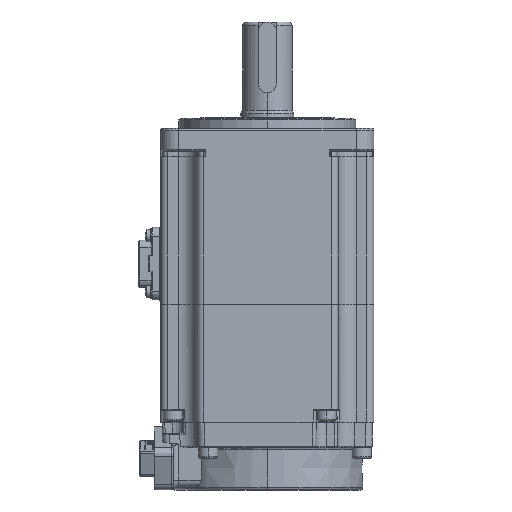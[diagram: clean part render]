
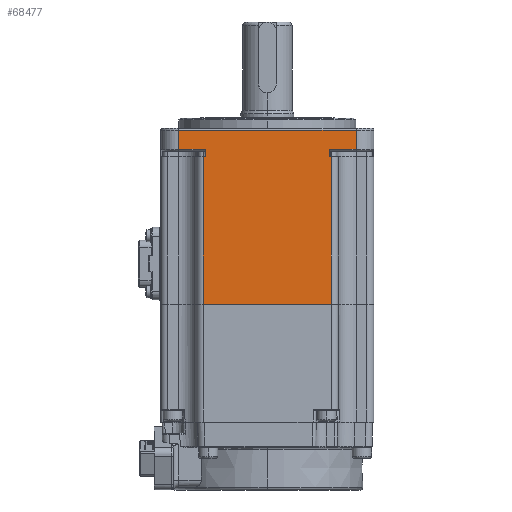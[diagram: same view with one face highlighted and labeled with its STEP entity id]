
A CAD part, left-side view. The second image highlights one B-rep face of the part: STEP entity #68477.
In plain terms, the highlighted planar face has unit normal (-1, 0, 0).
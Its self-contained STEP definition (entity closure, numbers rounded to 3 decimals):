
#850 = DIRECTION ( 'NONE',  ( 0., 1., 0. ) ) ;
#1247 = DIRECTION ( 'NONE',  ( 0., -1., 0. ) ) ;
#2289 = ORIENTED_EDGE ( 'NONE', *, *, #30442, .T. ) ;
#2889 = CARTESIAN_POINT ( 'NONE',  ( -30.584, 8.554, 102.1 ) ) ;
#4949 = DIRECTION ( 'NONE',  ( 0., 1., 0. ) ) ;
#5615 = CARTESIAN_POINT ( 'NONE',  ( -30.584, -34.646, 101.1 ) ) ;
#6424 = DIRECTION ( 'NONE',  ( 0., 0., 1. ) ) ;
#7296 = LINE ( 'NONE', #36928, #55572 ) ;
#9461 = CARTESIAN_POINT ( 'NONE',  ( -30.584, -27.046, 102.1 ) ) ;
#10015 = VERTEX_POINT ( 'NONE', #65528 ) ;
#10464 = VERTEX_POINT ( 'NONE', #37997 ) ;
#11219 = EDGE_CURVE ( 'NONE', #18565, #20578, #69571, .T. ) ;
#11805 = VERTEX_POINT ( 'NONE', #45586 ) ;
#12028 = VERTEX_POINT ( 'NONE', #67839 ) ;
#12664 = CARTESIAN_POINT ( 'NONE',  ( -30.584, -34.646, 102.1 ) ) ;
#15778 = CARTESIAN_POINT ( 'NONE',  ( -30.584, -34.646, 95.7 ) ) ;
#16158 = VERTEX_POINT ( 'NONE', #68656 ) ;
#18565 = VERTEX_POINT ( 'NONE', #81176 ) ;
#18605 = DIRECTION ( 'NONE',  ( 0., 0., 1. ) ) ;
#20578 = VERTEX_POINT ( 'NONE', #95076 ) ;
#21149 = LINE ( 'NONE', #12664, #45270 ) ;
#21470 = EDGE_CURVE ( 'NONE', #76442, #90527, #61061, .T. ) ;
#22465 = VECTOR ( 'NONE', #18605, 1000. ) ;
#23112 = LINE ( 'NONE', #2889, #89832 ) ;
#27778 = CARTESIAN_POINT ( 'NONE',  ( -30.584, -27.646, 51.9 ) ) ;
#27792 = ORIENTED_EDGE ( 'NONE', *, *, #21470, .T. ) ;
#28299 = VECTOR ( 'NONE', #59729, 1000. ) ;
#28904 = PLANE ( 'NONE',  #52386 ) ;
#29949 = EDGE_CURVE ( 'NONE', #90527, #100027, #71629, .T. ) ;
#30442 = EDGE_CURVE ( 'NONE', #10015, #10464, #44481, .T. ) ;
#30621 = ORIENTED_EDGE ( 'NONE', *, *, #40071, .T. ) ;
#32326 = EDGE_LOOP ( 'NONE', ( #73405, #70535, #2289, #71899, #81827, #30621, #27792, #61866, #107283, #41952, #63217, #43305 ) ) ;
#36928 = CARTESIAN_POINT ( 'NONE',  ( -30.584, -39.646, 51.9 ) ) ;
#37640 = CARTESIAN_POINT ( 'NONE',  ( -30.584, -39.646, 102.1 ) ) ;
#37997 = CARTESIAN_POINT ( 'NONE',  ( -30.584, -27.046, 93.7 ) ) ;
#39292 = LINE ( 'NONE', #15778, #108832 ) ;
#40071 = EDGE_CURVE ( 'NONE', #12028, #76442, #21149, .T. ) ;
#41650 = VECTOR ( 'NONE', #850, 1000. ) ;
#41952 = ORIENTED_EDGE ( 'NONE', *, *, #72977, .T. ) ;
#43305 = ORIENTED_EDGE ( 'NONE', *, *, #67373, .T. ) ;
#44481 = LINE ( 'NONE', #55221, #41650 ) ;
#45270 = VECTOR ( 'NONE', #67060, 1000. ) ;
#45586 = CARTESIAN_POINT ( 'NONE',  ( -30.584, -27.046, 95.7 ) ) ;
#47128 = DIRECTION ( 'NONE',  ( 0., 1., 0. ) ) ;
#50578 = CARTESIAN_POINT ( 'NONE',  ( -30.584, 7.954, 102.1 ) ) ;
#52386 = AXIS2_PLACEMENT_3D ( 'NONE', #37640, #101558, #47128 ) ;
#52446 = LINE ( 'NONE', #50578, #28299 ) ;
#54306 = EDGE_CURVE ( 'NONE', #109733, #95135, #7296, .T. ) ;
#55049 = CARTESIAN_POINT ( 'NONE',  ( -30.584, -39.646, 101.1 ) ) ;
#55221 = CARTESIAN_POINT ( 'NONE',  ( -30.584, -39.646, 93.7 ) ) ;
#55572 = VECTOR ( 'NONE', #100486, 1000. ) ;
#57389 = LINE ( 'NONE', #115121, #102817 ) ;
#59729 = DIRECTION ( 'NONE',  ( 0., 0., -1. ) ) ;
#61061 = LINE ( 'NONE', #55049, #109313 ) ;
#61866 = ORIENTED_EDGE ( 'NONE', *, *, #29949, .T. ) ;
#63217 = ORIENTED_EDGE ( 'NONE', *, *, #11219, .T. ) ;
#64234 = DIRECTION ( 'NONE',  ( 0., 1., 0. ) ) ;
#64762 = CARTESIAN_POINT ( 'NONE',  ( -30.584, 7.954, 95.7 ) ) ;
#65168 = LINE ( 'NONE', #64762, #113379 ) ;
#65528 = CARTESIAN_POINT ( 'NONE',  ( -30.584, -27.646, 93.7 ) ) ;
#65916 = VECTOR ( 'NONE', #108113, 1000. ) ;
#66406 = DIRECTION ( 'NONE',  ( 0., 0., -1. ) ) ;
#67060 = DIRECTION ( 'NONE',  ( 0., 0., 1. ) ) ;
#67373 = EDGE_CURVE ( 'NONE', #20578, #95135, #23112, .T. ) ;
#67839 = CARTESIAN_POINT ( 'NONE',  ( -30.584, -34.646, 95.7 ) ) ;
#68477 = ADVANCED_FACE ( 'NONE', ( #89589 ), #28904, .F. ) ;
#68656 = CARTESIAN_POINT ( 'NONE',  ( -30.584, 7.954, 95.7 ) ) ;
#69571 = LINE ( 'NONE', #104531, #114930 ) ;
#70535 = ORIENTED_EDGE ( 'NONE', *, *, #105972, .T. ) ;
#71629 = LINE ( 'NONE', #117206, #65916 ) ;
#71899 = ORIENTED_EDGE ( 'NONE', *, *, #82150, .T. ) ;
#72977 = EDGE_CURVE ( 'NONE', #16158, #18565, #52446, .T. ) ;
#73405 = ORIENTED_EDGE ( 'NONE', *, *, #54306, .F. ) ;
#76442 = VERTEX_POINT ( 'NONE', #5615 ) ;
#81176 = CARTESIAN_POINT ( 'NONE',  ( -30.584, 7.954, 93.7 ) ) ;
#81664 = EDGE_CURVE ( 'NONE', #100027, #16158, #65168, .T. ) ;
#81827 = ORIENTED_EDGE ( 'NONE', *, *, #102454, .T. ) ;
#82150 = EDGE_CURVE ( 'NONE', #10464, #11805, #94922, .T. ) ;
#86483 = CARTESIAN_POINT ( 'NONE',  ( -30.584, 15.554, 101.1 ) ) ;
#89589 = FACE_OUTER_BOUND ( 'NONE', #32326, .T. ) ;
#89832 = VECTOR ( 'NONE', #66406, 1000. ) ;
#90527 = VERTEX_POINT ( 'NONE', #86483 ) ;
#92741 = CARTESIAN_POINT ( 'NONE',  ( -30.584, 8.554, 51.9 ) ) ;
#94922 = LINE ( 'NONE', #9461, #22465 ) ;
#95076 = CARTESIAN_POINT ( 'NONE',  ( -30.584, 8.554, 93.7 ) ) ;
#95135 = VERTEX_POINT ( 'NONE', #92741 ) ;
#97231 = DIRECTION ( 'NONE',  ( 0., -1., 0. ) ) ;
#100027 = VERTEX_POINT ( 'NONE', #111459 ) ;
#100486 = DIRECTION ( 'NONE',  ( 0., 1., 0. ) ) ;
#101558 = DIRECTION ( 'NONE',  ( 1., 0., 0. ) ) ;
#102454 = EDGE_CURVE ( 'NONE', #11805, #12028, #39292, .T. ) ;
#102817 = VECTOR ( 'NONE', #6424, 1000. ) ;
#104531 = CARTESIAN_POINT ( 'NONE',  ( -30.584, -39.646, 93.7 ) ) ;
#105972 = EDGE_CURVE ( 'NONE', #109733, #10015, #57389, .T. ) ;
#107283 = ORIENTED_EDGE ( 'NONE', *, *, #81664, .T. ) ;
#108113 = DIRECTION ( 'NONE',  ( 0., 0., -1. ) ) ;
#108832 = VECTOR ( 'NONE', #97231, 1000. ) ;
#109313 = VECTOR ( 'NONE', #64234, 1000. ) ;
#109733 = VERTEX_POINT ( 'NONE', #27778 ) ;
#111459 = CARTESIAN_POINT ( 'NONE',  ( -30.584, 15.554, 95.7 ) ) ;
#113379 = VECTOR ( 'NONE', #1247, 1000. ) ;
#114930 = VECTOR ( 'NONE', #4949, 1000. ) ;
#115121 = CARTESIAN_POINT ( 'NONE',  ( -30.584, -27.646, 102.1 ) ) ;
#117206 = CARTESIAN_POINT ( 'NONE',  ( -30.584, 15.554, 102.1 ) ) ;
